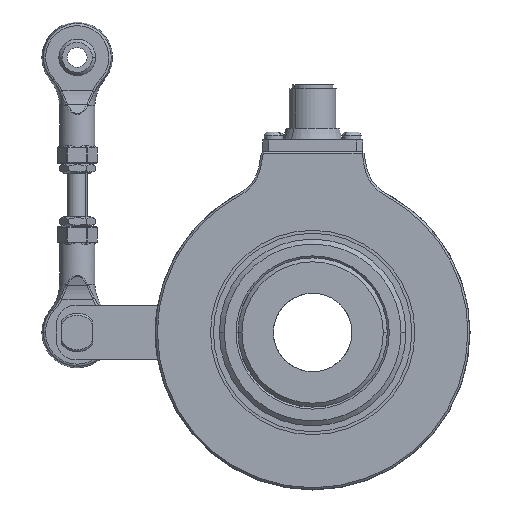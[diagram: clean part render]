
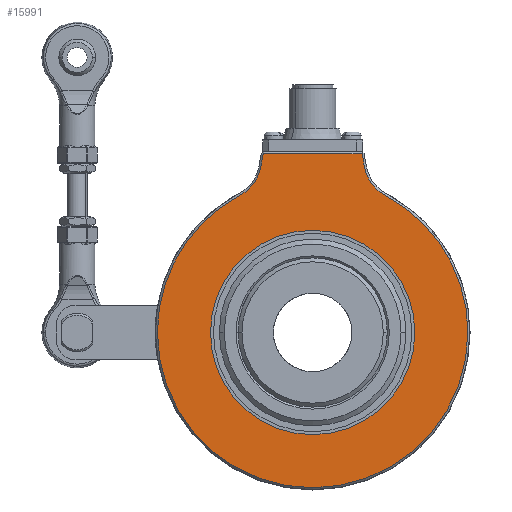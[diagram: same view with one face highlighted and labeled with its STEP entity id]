
A CAD part, left-side view. The second image highlights one B-rep face of the part: STEP entity #15991.
In plain terms, the highlighted planar face has unit normal (-1, 0, 0).
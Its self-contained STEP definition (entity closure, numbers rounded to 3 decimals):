
#521 = PLANE ( 'NONE',  #4088 ) ;
#555 = DIRECTION ( 'NONE',  ( 0., -1., 0. ) ) ;
#588 = VECTOR ( 'NONE', #26796, 1000. ) ;
#680 = DIRECTION ( 'NONE',  ( -1., 0., 0. ) ) ;
#720 = CARTESIAN_POINT ( 'NONE',  ( -26., 0., 0. ) ) ;
#1112 = CARTESIAN_POINT ( 'NONE',  ( -26., 0., 0. ) ) ;
#1511 = VERTEX_POINT ( 'NONE', #28421 ) ;
#2893 = VERTEX_POINT ( 'NONE', #16736 ) ;
#3324 = EDGE_CURVE ( 'NONE', #26941, #1511, #21088, .T. ) ;
#3416 = CARTESIAN_POINT ( 'NONE',  ( -26., 23.482, 44.143 ) ) ;
#3483 = EDGE_CURVE ( 'NONE', #1511, #11174, #18959, .T. ) ;
#3769 = DIRECTION ( 'NONE',  ( 0., 1., 0. ) ) ;
#4038 = VERTEX_POINT ( 'NONE', #19723 ) ;
#4088 = AXIS2_PLACEMENT_3D ( 'NONE', #10335, #680, #10641 ) ;
#4287 = EDGE_CURVE ( 'NONE', #9857, #24325, #25638, .T. ) ;
#4500 = DIRECTION ( 'NONE',  ( 0., -1., 0. ) ) ;
#5406 = FACE_BOUND ( 'NONE', #13369, .T. ) ;
#5882 = ORIENTED_EDGE ( 'NONE', *, *, #16141, .T. ) ;
#6427 = CARTESIAN_POINT ( 'NONE',  ( -26., -18.551, 34.873 ) ) ;
#6515 = AXIS2_PLACEMENT_3D ( 'NONE', #1112, #16182, #26962 ) ;
#6938 = VERTEX_POINT ( 'NONE', #29764 ) ;
#7555 = AXIS2_PLACEMENT_3D ( 'NONE', #20846, #15610, #15442 ) ;
#7813 = CIRCLE ( 'NONE', #14086, 10.5 ) ;
#7847 = EDGE_CURVE ( 'NONE', #4038, #2893, #9084, .T. ) ;
#8738 = VERTEX_POINT ( 'NONE', #6427 ) ;
#8837 = DIRECTION ( 'NONE',  ( 0., -1., 0. ) ) ;
#9015 = AXIS2_PLACEMENT_3D ( 'NONE', #3416, #21450, #8837 ) ;
#9084 = CIRCLE ( 'NONE', #31088, 26. ) ;
#9197 = DIRECTION ( 'NONE',  ( 1., 0., 0. ) ) ;
#9389 = LINE ( 'NONE', #31694, #10887 ) ;
#9527 = ORIENTED_EDGE ( 'NONE', *, *, #7847, .T. ) ;
#9857 = VERTEX_POINT ( 'NONE', #18077 ) ;
#10335 = CARTESIAN_POINT ( 'NONE',  ( -26., 40., 0. ) ) ;
#10641 = DIRECTION ( 'NONE',  ( 0., -1., 0. ) ) ;
#10756 = DIRECTION ( 'NONE',  ( 0., 0.174, 0.985 ) ) ;
#10887 = VECTOR ( 'NONE', #14279, 1000. ) ;
#11143 = EDGE_CURVE ( 'NONE', #2893, #4038, #15512, .T. ) ;
#11174 = VERTEX_POINT ( 'NONE', #22611 ) ;
#11263 = DIRECTION ( 'NONE',  ( 1., 0., 0. ) ) ;
#11512 = AXIS2_PLACEMENT_3D ( 'NONE', #720, #22974, #555 ) ;
#11739 = ORIENTED_EDGE ( 'NONE', *, *, #4287, .T. ) ;
#12090 = EDGE_CURVE ( 'NONE', #8738, #26941, #7813, .T. ) ;
#12157 = CARTESIAN_POINT ( 'NONE',  ( -26., 39.5, 0. ) ) ;
#12294 = ORIENTED_EDGE ( 'NONE', *, *, #12090, .T. ) ;
#13369 = EDGE_LOOP ( 'NONE', ( #30401, #9527 ) ) ;
#13815 = CIRCLE ( 'NONE', #6515, 39.5 ) ;
#14086 = AXIS2_PLACEMENT_3D ( 'NONE', #27421, #26946, #4500 ) ;
#14279 = DIRECTION ( 'NONE',  ( 0., 0.174, -0.985 ) ) ;
#14947 = CARTESIAN_POINT ( 'NONE',  ( -26., 13.141, 42.32 ) ) ;
#14984 = CIRCLE ( 'NONE', #9015, 10.5 ) ;
#15442 = DIRECTION ( 'NONE',  ( 0., -1., 0. ) ) ;
#15512 = CIRCLE ( 'NONE', #19704, 26. ) ;
#15610 = DIRECTION ( 'NONE',  ( -1., 0., 0. ) ) ;
#15991 = ADVANCED_FACE ( 'NONE', ( #24576, #5406 ), #521, .T. ) ;
#16038 = DIRECTION ( 'NONE',  ( 0., 1., 0. ) ) ;
#16141 = EDGE_CURVE ( 'NONE', #27431, #9857, #14984, .T. ) ;
#16182 = DIRECTION ( 'NONE',  ( -1., 0., 0. ) ) ;
#16440 = CIRCLE ( 'NONE', #7555, 39.5 ) ;
#16736 = CARTESIAN_POINT ( 'NONE',  ( -26., 26., 0. ) ) ;
#16992 = ORIENTED_EDGE ( 'NONE', *, *, #26490, .T. ) ;
#17512 = ORIENTED_EDGE ( 'NONE', *, *, #3483, .T. ) ;
#18077 = CARTESIAN_POINT ( 'NONE',  ( -26., 18.551, 34.873 ) ) ;
#18094 = EDGE_CURVE ( 'NONE', #24325, #6938, #16440, .T. ) ;
#18107 = EDGE_LOOP ( 'NONE', ( #28878, #17512, #16992, #5882, #11739, #26000, #28821, #12294 ) ) ;
#18959 = LINE ( 'NONE', #28923, #588 ) ;
#19704 = AXIS2_PLACEMENT_3D ( 'NONE', #29319, #9197, #3769 ) ;
#19723 = CARTESIAN_POINT ( 'NONE',  ( -26., -26., 0. ) ) ;
#20049 = EDGE_CURVE ( 'NONE', #6938, #8738, #13815, .T. ) ;
#20846 = CARTESIAN_POINT ( 'NONE',  ( -26., 0., 0. ) ) ;
#21088 = LINE ( 'NONE', #30939, #23585 ) ;
#21450 = DIRECTION ( 'NONE',  ( 1., 0., 0. ) ) ;
#22611 = CARTESIAN_POINT ( 'NONE',  ( -26., 12.58, 45.5 ) ) ;
#22974 = DIRECTION ( 'NONE',  ( -1., 0., 0. ) ) ;
#23585 = VECTOR ( 'NONE', #10756, 1000. ) ;
#24325 = VERTEX_POINT ( 'NONE', #12157 ) ;
#24576 = FACE_OUTER_BOUND ( 'NONE', #18107, .T. ) ;
#25638 = CIRCLE ( 'NONE', #11512, 39.5 ) ;
#26000 = ORIENTED_EDGE ( 'NONE', *, *, #18094, .T. ) ;
#26490 = EDGE_CURVE ( 'NONE', #11174, #27431, #9389, .T. ) ;
#26796 = DIRECTION ( 'NONE',  ( 0., 1., 0. ) ) ;
#26941 = VERTEX_POINT ( 'NONE', #31889 ) ;
#26946 = DIRECTION ( 'NONE',  ( 1., 0., 0. ) ) ;
#26962 = DIRECTION ( 'NONE',  ( 0., -1., 0. ) ) ;
#27421 = CARTESIAN_POINT ( 'NONE',  ( -26., -23.482, 44.143 ) ) ;
#27431 = VERTEX_POINT ( 'NONE', #14947 ) ;
#28421 = CARTESIAN_POINT ( 'NONE',  ( -26., -12.58, 45.5 ) ) ;
#28821 = ORIENTED_EDGE ( 'NONE', *, *, #20049, .T. ) ;
#28878 = ORIENTED_EDGE ( 'NONE', *, *, #3324, .T. ) ;
#28923 = CARTESIAN_POINT ( 'NONE',  ( -26., 40., 45.5 ) ) ;
#29319 = CARTESIAN_POINT ( 'NONE',  ( -26., 0., 0. ) ) ;
#29764 = CARTESIAN_POINT ( 'NONE',  ( -26., -39.5, 0. ) ) ;
#30401 = ORIENTED_EDGE ( 'NONE', *, *, #11143, .T. ) ;
#30939 = CARTESIAN_POINT ( 'NONE',  ( -26., -18.776, 10.364 ) ) ;
#31088 = AXIS2_PLACEMENT_3D ( 'NONE', #31463, #11263, #16038 ) ;
#31463 = CARTESIAN_POINT ( 'NONE',  ( -26., 0., 0. ) ) ;
#31694 = CARTESIAN_POINT ( 'NONE',  ( -26., 21.188, -3.317 ) ) ;
#31889 = CARTESIAN_POINT ( 'NONE',  ( -26., -13.141, 42.32 ) ) ;
